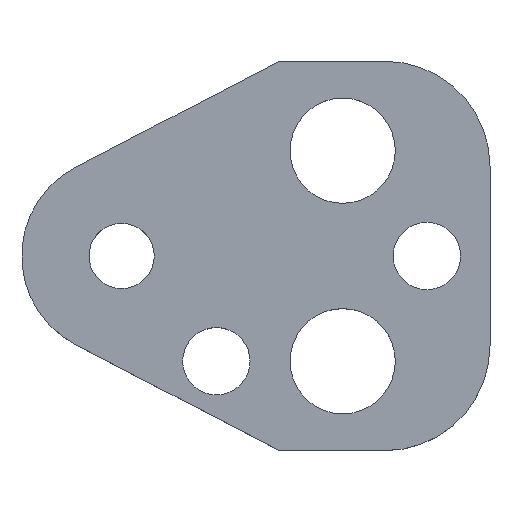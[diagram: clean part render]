
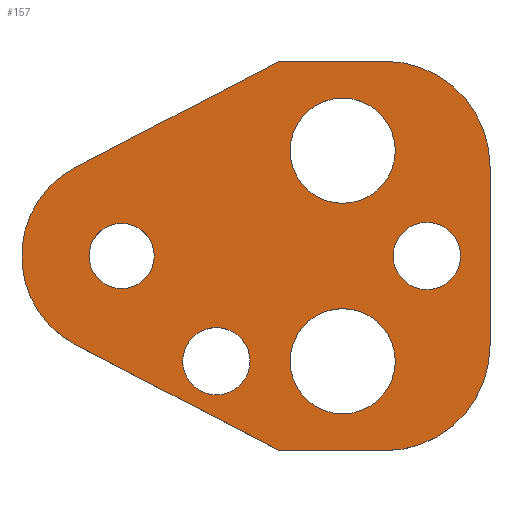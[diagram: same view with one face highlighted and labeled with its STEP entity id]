
A CAD part, top view. The second image highlights one B-rep face of the part: STEP entity #157.
In plain terms, the highlighted planar face has unit normal (0, 0, 1).
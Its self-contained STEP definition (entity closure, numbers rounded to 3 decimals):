
#103=FACE_BOUND('',#207,.T.);
#104=FACE_BOUND('',#208,.T.);
#105=FACE_BOUND('',#209,.T.);
#106=FACE_BOUND('',#210,.T.);
#107=FACE_BOUND('',#211,.T.);
#108=FACE_BOUND('',#212,.T.);
#122=CIRCLE('',#480,10.);
#124=CIRCLE('',#484,10.);
#127=CIRCLE('',#490,9.5);
#138=CIRCLE('',#503,3.2);
#139=CIRCLE('',#504,3.2);
#140=CIRCLE('',#505,5.);
#141=CIRCLE('',#506,5.);
#142=CIRCLE('',#507,5.);
#143=CIRCLE('',#508,5.);
#144=CIRCLE('',#509,3.2);
#145=CIRCLE('',#510,3.2);
#146=CIRCLE('',#511,3.1);
#147=CIRCLE('',#512,3.1);
#157=ADVANCED_FACE('',(#103,#104,#105,#106,#107,#108),#174,.T.);
#174=PLANE('',#513);
#207=EDGE_LOOP('',(#273,#274,#275,#276,#277,#278,#279,#280));
#208=EDGE_LOOP('',(#281,#282));
#209=EDGE_LOOP('',(#283,#284));
#210=EDGE_LOOP('',(#285,#286));
#211=EDGE_LOOP('',(#287,#288));
#212=EDGE_LOOP('',(#289,#290));
#273=ORIENTED_EDGE('',*,*,#368,.T.);
#274=ORIENTED_EDGE('',*,*,#372,.T.);
#275=ORIENTED_EDGE('',*,*,#375,.T.);
#276=ORIENTED_EDGE('',*,*,#378,.T.);
#277=ORIENTED_EDGE('',*,*,#381,.T.);
#278=ORIENTED_EDGE('',*,*,#384,.T.);
#279=ORIENTED_EDGE('',*,*,#387,.T.);
#280=ORIENTED_EDGE('',*,*,#390,.T.);
#281=ORIENTED_EDGE('',*,*,#401,.T.);
#282=ORIENTED_EDGE('',*,*,#402,.T.);
#283=ORIENTED_EDGE('',*,*,#403,.T.);
#284=ORIENTED_EDGE('',*,*,#404,.T.);
#285=ORIENTED_EDGE('',*,*,#405,.T.);
#286=ORIENTED_EDGE('',*,*,#406,.T.);
#287=ORIENTED_EDGE('',*,*,#407,.T.);
#288=ORIENTED_EDGE('',*,*,#408,.T.);
#289=ORIENTED_EDGE('',*,*,#409,.T.);
#290=ORIENTED_EDGE('',*,*,#410,.T.);
#332=VERTEX_POINT('',#649);
#333=VERTEX_POINT('',#651);
#336=VERTEX_POINT('',#658);
#338=VERTEX_POINT('',#664);
#340=VERTEX_POINT('',#670);
#342=VERTEX_POINT('',#676);
#344=VERTEX_POINT('',#682);
#346=VERTEX_POINT('',#688);
#357=VERTEX_POINT('',#717);
#358=VERTEX_POINT('',#718);
#359=VERTEX_POINT('',#721);
#360=VERTEX_POINT('',#722);
#361=VERTEX_POINT('',#725);
#362=VERTEX_POINT('',#726);
#363=VERTEX_POINT('',#729);
#364=VERTEX_POINT('',#730);
#365=VERTEX_POINT('',#733);
#366=VERTEX_POINT('',#734);
#368=EDGE_CURVE('',#333,#332,#422,.T.);
#372=EDGE_CURVE('',#332,#336,#426,.T.);
#375=EDGE_CURVE('',#336,#338,#122,.T.);
#378=EDGE_CURVE('',#338,#340,#430,.T.);
#381=EDGE_CURVE('',#340,#342,#124,.T.);
#384=EDGE_CURVE('',#342,#344,#434,.T.);
#387=EDGE_CURVE('',#344,#346,#437,.T.);
#390=EDGE_CURVE('',#346,#333,#127,.T.);
#401=EDGE_CURVE('',#357,#358,#138,.T.);
#402=EDGE_CURVE('',#358,#357,#139,.T.);
#403=EDGE_CURVE('',#359,#360,#140,.T.);
#404=EDGE_CURVE('',#360,#359,#141,.T.);
#405=EDGE_CURVE('',#361,#362,#142,.T.);
#406=EDGE_CURVE('',#362,#361,#143,.T.);
#407=EDGE_CURVE('',#363,#364,#144,.T.);
#408=EDGE_CURVE('',#364,#363,#145,.T.);
#409=EDGE_CURVE('',#365,#366,#146,.T.);
#410=EDGE_CURVE('',#366,#365,#147,.T.);
#422=LINE('',#650,#450);
#426=LINE('',#659,#454);
#430=LINE('',#671,#458);
#434=LINE('',#683,#462);
#437=LINE('',#689,#465);
#450=VECTOR('',#527,1.);
#454=VECTOR('',#533,1.);
#458=VECTOR('',#545,1.);
#462=VECTOR('',#557,1.);
#465=VECTOR('',#562,1.);
#480=AXIS2_PLACEMENT_3D('',#665,#538,#539);
#484=AXIS2_PLACEMENT_3D('',#677,#550,#551);
#490=AXIS2_PLACEMENT_3D('',#693,#568,#569);
#503=AXIS2_PLACEMENT_3D('',#716,#594,#595);
#504=AXIS2_PLACEMENT_3D('',#719,#596,#597);
#505=AXIS2_PLACEMENT_3D('',#720,#598,#599);
#506=AXIS2_PLACEMENT_3D('',#723,#600,#601);
#507=AXIS2_PLACEMENT_3D('',#724,#602,#603);
#508=AXIS2_PLACEMENT_3D('',#727,#604,#605);
#509=AXIS2_PLACEMENT_3D('',#728,#606,#607);
#510=AXIS2_PLACEMENT_3D('',#731,#608,#609);
#511=AXIS2_PLACEMENT_3D('',#732,#610,#611);
#512=AXIS2_PLACEMENT_3D('',#735,#612,#613);
#513=AXIS2_PLACEMENT_3D('',#736,#614,#615);
#527=DIRECTION('',(0.887,-0.461,0.));
#533=DIRECTION('',(1.,0.,0.));
#538=DIRECTION('',(0.,0.,1.));
#539=DIRECTION('',(-0.707,0.707,0.));
#545=DIRECTION('',(0.,1.,0.));
#550=DIRECTION('',(0.,0.,1.));
#551=DIRECTION('',(-0.707,-0.707,0.));
#557=DIRECTION('',(-1.,0.,0.));
#562=DIRECTION('',(-0.887,-0.461,0.));
#568=DIRECTION('',(0.,0.,1.));
#569=DIRECTION('',(1.,0.,0.));
#594=DIRECTION('',(0.,0.,-1.));
#595=DIRECTION('',(-1.,0.,0.));
#596=DIRECTION('',(0.,0.,-1.));
#597=DIRECTION('',(1.,0.,0.));
#598=DIRECTION('',(0.,0.,-1.));
#599=DIRECTION('',(-1.,0.,0.));
#600=DIRECTION('',(0.,0.,-1.));
#601=DIRECTION('',(1.,0.,0.));
#602=DIRECTION('',(0.,0.,-1.));
#603=DIRECTION('',(-1.,0.,0.));
#604=DIRECTION('',(0.,0.,-1.));
#605=DIRECTION('',(1.,0.,0.));
#606=DIRECTION('',(0.,0.,-1.));
#607=DIRECTION('',(-1.,0.,0.));
#608=DIRECTION('',(0.,0.,-1.));
#609=DIRECTION('',(1.,0.,0.));
#610=DIRECTION('',(0.,0.,-1.));
#611=DIRECTION('',(-1.,0.,0.));
#612=DIRECTION('',(0.,0.,-1.));
#613=DIRECTION('',(1.,0.,0.));
#614=DIRECTION('',(0.,0.,1.));
#615=DIRECTION('',(0.887,-0.461,0.));
#649=CARTESIAN_POINT('',(15.,-18.5,5.));
#650=CARTESIAN_POINT('',(15.,-18.5,5.));
#651=CARTESIAN_POINT('',(-4.38,-8.43,5.));
#658=CARTESIAN_POINT('',(25.,-18.5,5.));
#659=CARTESIAN_POINT('',(15.,-18.5,5.));
#664=CARTESIAN_POINT('',(35.,-8.5,5.));
#665=CARTESIAN_POINT('',(25.,-8.5,5.));
#670=CARTESIAN_POINT('',(35.,8.5,5.));
#671=CARTESIAN_POINT('',(35.,8.5,5.));
#676=CARTESIAN_POINT('',(25.,18.5,5.));
#677=CARTESIAN_POINT('',(25.,8.5,5.));
#682=CARTESIAN_POINT('',(15.,18.5,5.));
#683=CARTESIAN_POINT('',(15.,18.5,5.));
#688=CARTESIAN_POINT('',(-4.38,8.43,5.));
#689=CARTESIAN_POINT('',(15.,18.5,5.));
#693=CARTESIAN_POINT('',(0.,0.,5.));
#716=CARTESIAN_POINT('',(29.,0.,5.));
#717=CARTESIAN_POINT('',(29.,3.2,5.));
#718=CARTESIAN_POINT('',(29.,-3.2,5.));
#719=CARTESIAN_POINT('',(29.,0.,5.));
#720=CARTESIAN_POINT('',(21.,10.,5.));
#721=CARTESIAN_POINT('',(21.,15.,5.));
#722=CARTESIAN_POINT('',(21.,5.,5.));
#723=CARTESIAN_POINT('',(21.,10.,5.));
#724=CARTESIAN_POINT('',(21.,-10.,5.));
#725=CARTESIAN_POINT('',(21.,-5.,5.));
#726=CARTESIAN_POINT('',(21.,-15.,5.));
#727=CARTESIAN_POINT('',(21.,-10.,5.));
#728=CARTESIAN_POINT('',(9.,-10.,5.));
#729=CARTESIAN_POINT('',(9.,-6.8,5.));
#730=CARTESIAN_POINT('',(9.,-13.2,5.));
#731=CARTESIAN_POINT('',(9.,-10.,5.));
#732=CARTESIAN_POINT('',(0.,0.,5.));
#733=CARTESIAN_POINT('',(0.,3.1,5.));
#734=CARTESIAN_POINT('',(0.,-3.1,5.));
#735=CARTESIAN_POINT('',(0.,0.,5.));
#736=CARTESIAN_POINT('',(-4.38,-8.43,5.));
